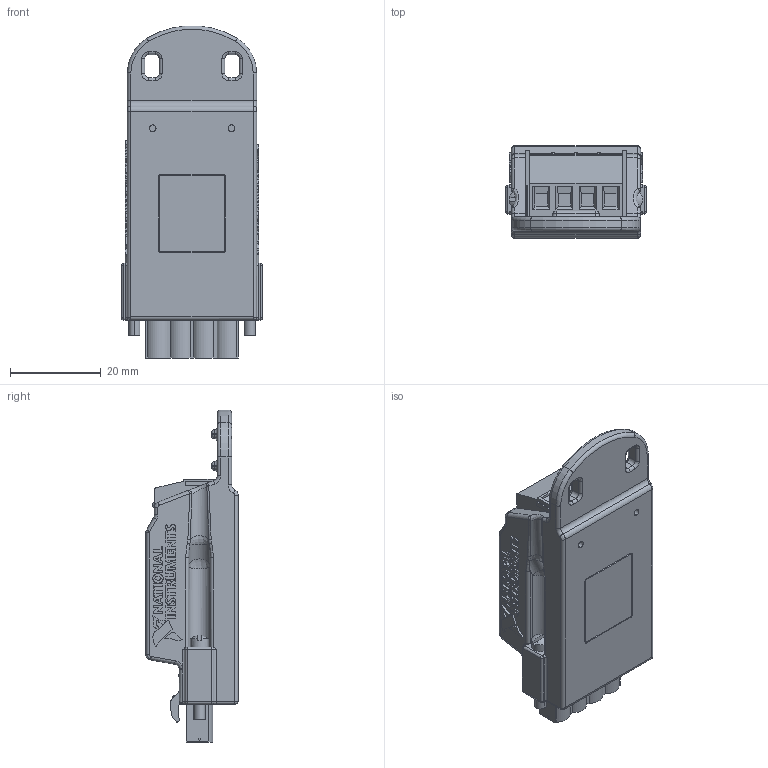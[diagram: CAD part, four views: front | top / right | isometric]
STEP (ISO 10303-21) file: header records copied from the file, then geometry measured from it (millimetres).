
FILE_DESCRIPTION((''),'2;1');
FILE_NAME('CU_NI-9931','2009-03-16T',('dcrowder'),(''),'PRO/ENGINEER BY PARAMETRIC TECHNOLOGY CORPORATION, 2006080','PRO/ENGINEER BY PARAMETRIC TECHNOLOGY CORPORATION, 2006080','');
FILE_SCHEMA(('CONFIG_CONTROL_DESIGN'));
Products named in the file (1): CU_NI-9931
Bounding box: 30.94 x 20.32 x 73 mm (x, y, z)
Volume: 26285.9 mm3; surface area: 10336.6 mm2
Topology: 1 solids, 1 shells, 2950 faces, 8222 edges, 5407 vertices
Faces by surface type: plane 2434, cylinder 244, extrusion 142, torus 46, bspline 46, sphere 26, cone 12
Entity records: 95940 total; most frequent: CARTESIAN_POINT 20568, ORIENTED_EDGE 16444, DIRECTION 14122, EDGE_CURVE 8222, VECTOR 7328, LINE 7186, VERTEX_POINT 5407, AXIS2_PLACEMENT_3D 3397
